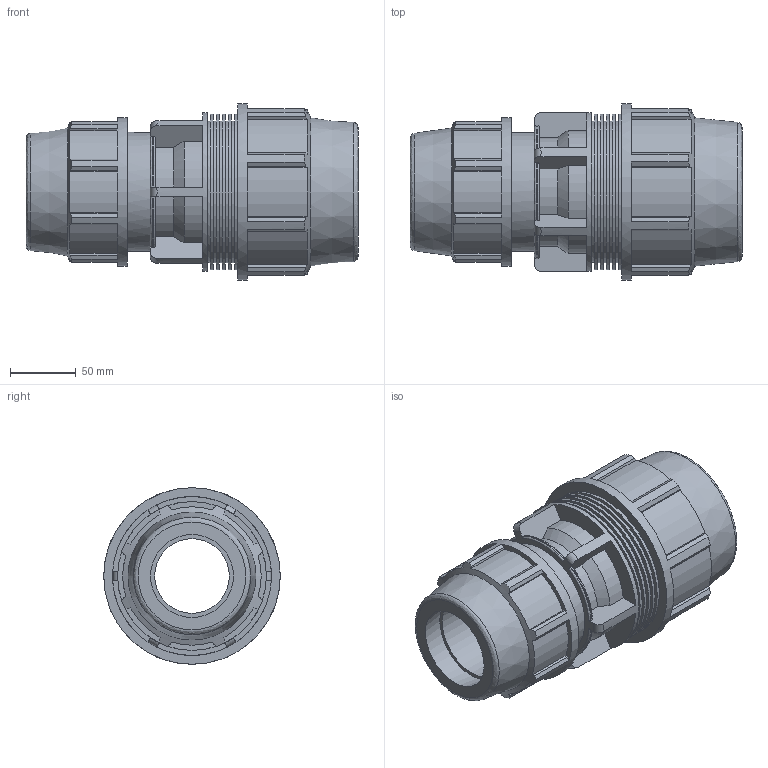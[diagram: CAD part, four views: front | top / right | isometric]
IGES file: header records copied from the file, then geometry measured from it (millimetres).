
Global section: file name: 0711060750630A.ipt; native system: Autodesk Inventor 2015; preprocessor: unknown; author: KIM; date: 20170608.042509; units: millimetre
Bounding box: 252 x 134 x 134 mm (x, y, z)
Volume: 1355736.3 mm3; surface area: 200347.4 mm2
Topology: 1 solids, 1 shells, 207 faces, 580 edges, 392 vertices
Faces by surface type: plane 123, cylinder 54, revolution 20, cone 10
Full cylindrical faces by diameter (mm): 90.4 x1, 107.2 x5, 113 x1, 118.188 x5, 120.6 x1, 134 x1
